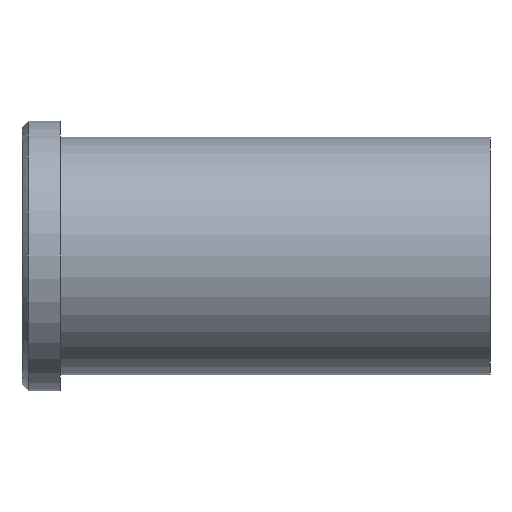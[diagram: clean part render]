
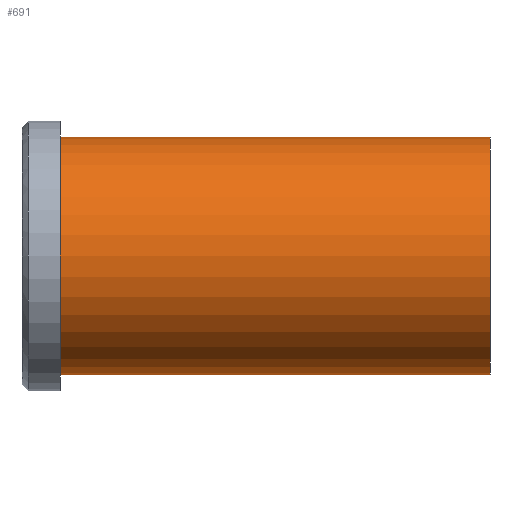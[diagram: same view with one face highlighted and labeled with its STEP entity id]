
A CAD part, front view. The second image highlights one B-rep face of the part: STEP entity #691.
In plain terms, the highlighted cylindrical face has radius 37 mm (diameter 74 mm), a partial arc.
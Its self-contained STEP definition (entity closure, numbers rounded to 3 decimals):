
#501=CARTESIAN_POINT('Vertex',(0.,0.,-37.)) ;
#506=CARTESIAN_POINT('Axis2P3D Location',(0.,0.,0.)) ;
#510=CARTESIAN_POINT('Vertex',(0.,-37.,0.)) ;
#513=CARTESIAN_POINT('Axis2P3D Location',(0.,0.,0.)) ;
#517=CARTESIAN_POINT('Vertex',(0.,0.,37.)) ;
#631=CARTESIAN_POINT('Line Origine',(134.,0.,37.)) ;
#635=CARTESIAN_POINT('Vertex',(134.,0.,37.)) ;
#649=CARTESIAN_POINT('Vertex',(134.,0.,-37.)) ;
#652=CARTESIAN_POINT('Line Origine',(134.,0.,-37.)) ;
#666=CARTESIAN_POINT('Axis2P3D Location',(134.,0.,0.)) ;
#671=CARTESIAN_POINT('Axis2P3D Location',(134.,0.,0.)) ;
#675=CARTESIAN_POINT('Vertex',(134.,-37.,0.)) ;
#678=CARTESIAN_POINT('Axis2P3D Location',(134.,0.,0.)) ;
#507=DIRECTION('Axis2P3D Direction',(1.,0.,-0.)) ;
#514=DIRECTION('Axis2P3D Direction',(1.,0.,-0.)) ;
#632=DIRECTION('Vector Direction',(-1.,0.,0.)) ;
#653=DIRECTION('Vector Direction',(-1.,0.,0.)) ;
#667=DIRECTION('Axis2P3D Direction',(-1.,-0.,-0.)) ;
#668=DIRECTION('Axis2P3D XDirection',(0.,0.,-1.)) ;
#672=DIRECTION('Axis2P3D Direction',(-1.,-0.,-0.)) ;
#679=DIRECTION('Axis2P3D Direction',(-1.,-0.,-0.)) ;
#508=AXIS2_PLACEMENT_3D('Circle Axis2P3D',#506,#507,$) ;
#515=AXIS2_PLACEMENT_3D('Circle Axis2P3D',#513,#514,$) ;
#669=AXIS2_PLACEMENT_3D('Cylinder Axis2P3D',#666,#667,#668) ;
#673=AXIS2_PLACEMENT_3D('Circle Axis2P3D',#671,#672,$) ;
#680=AXIS2_PLACEMENT_3D('Circle Axis2P3D',#678,#679,$) ;
#684=ORIENTED_EDGE('',*,*,#656,.T.) ;
#685=ORIENTED_EDGE('',*,*,#677,.F.) ;
#686=ORIENTED_EDGE('',*,*,#682,.F.) ;
#687=ORIENTED_EDGE('',*,*,#637,.T.) ;
#688=ORIENTED_EDGE('',*,*,#519,.T.) ;
#689=ORIENTED_EDGE('',*,*,#512,.T.) ;
#633=VECTOR('Line Direction',#632,1.) ;
#654=VECTOR('Line Direction',#653,1.) ;
#691=ADVANCED_FACE('353-60x146',(#690),#670,.T.) ;
#509=CIRCLE('generated circle',#508,37.) ;
#516=CIRCLE('generated circle',#515,37.) ;
#674=CIRCLE('generated circle',#673,37.) ;
#681=CIRCLE('generated circle',#680,37.) ;
#670=CYLINDRICAL_SURFACE('generated cylinder',#669,37.) ;
#512=EDGE_CURVE('',#511,#502,#509,.T.) ;
#519=EDGE_CURVE('',#518,#511,#516,.T.) ;
#637=EDGE_CURVE('',#636,#518,#634,.T.) ;
#656=EDGE_CURVE('',#502,#650,#655,.F.) ;
#677=EDGE_CURVE('',#676,#650,#674,.F.) ;
#682=EDGE_CURVE('',#636,#676,#681,.F.) ;
#683=EDGE_LOOP('',(#684,#685,#686,#687,#688,#689)) ;
#690=FACE_OUTER_BOUND('',#683,.T.) ;
#634=LINE('Line',#631,#633) ;
#655=LINE('Line',#652,#654) ;
#502=VERTEX_POINT('',#501) ;
#511=VERTEX_POINT('',#510) ;
#518=VERTEX_POINT('',#517) ;
#636=VERTEX_POINT('',#635) ;
#650=VERTEX_POINT('',#649) ;
#676=VERTEX_POINT('',#675) ;
